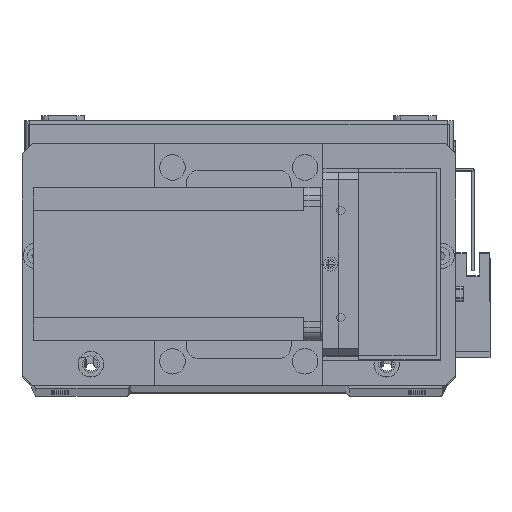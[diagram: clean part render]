
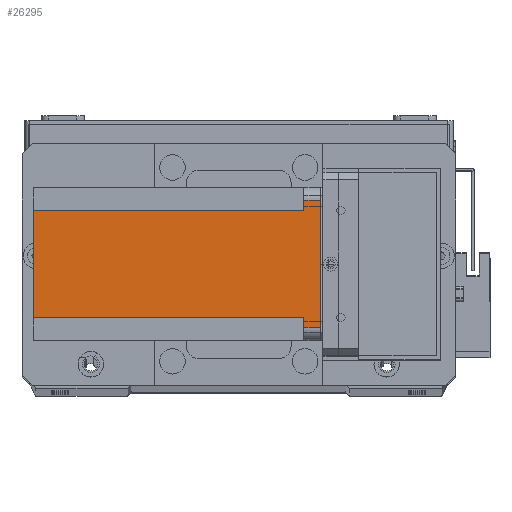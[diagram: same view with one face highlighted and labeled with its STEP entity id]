
A CAD part, top view. The second image highlights one B-rep face of the part: STEP entity #26295.
In plain terms, the highlighted planar face has unit normal (0, 0, 1) as drawn and (-1, 0, 0) by its records, which use the part's own axes.
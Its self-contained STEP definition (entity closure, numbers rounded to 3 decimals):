
#934 = VERTEX_POINT ( 'NONE', #27571 ) ;
#2223 = VERTEX_POINT ( 'NONE', #19794 ) ;
#2591 = ORIENTED_EDGE ( 'NONE', *, *, #21084, .T. ) ;
#3500 = DIRECTION ( 'NONE',  ( -1., 0., 0. ) ) ;
#3876 = CARTESIAN_POINT ( 'NONE',  ( 0., 9., -6.5 ) ) ;
#4418 = CARTESIAN_POINT ( 'NONE',  ( 0., 0., -6.5 ) ) ;
#4535 = FACE_OUTER_BOUND ( 'NONE', #28596, .T. ) ;
#5684 = DIRECTION ( 'NONE',  ( 0., 0., -1. ) ) ;
#6665 = CARTESIAN_POINT ( 'NONE',  ( 0., 5., 0. ) ) ;
#6993 = VERTEX_POINT ( 'NONE', #28992 ) ;
#7374 = LINE ( 'NONE', #4418, #25637 ) ;
#7587 = ORIENTED_EDGE ( 'NONE', *, *, #30103, .T. ) ;
#7748 = VECTOR ( 'NONE', #10515, 1000. ) ;
#7987 = CARTESIAN_POINT ( 'NONE',  ( 0., 0., 0. ) ) ;
#8128 = CARTESIAN_POINT ( 'NONE',  ( 0., 9., -112.5 ) ) ;
#8707 = CARTESIAN_POINT ( 'NONE',  ( 0., 55., -6.5 ) ) ;
#10515 = DIRECTION ( 'NONE',  ( 0., -1., 0. ) ) ;
#10524 = VERTEX_POINT ( 'NONE', #8707 ) ;
#11416 = ORIENTED_EDGE ( 'NONE', *, *, #23266, .F. ) ;
#11671 = ORIENTED_EDGE ( 'NONE', *, *, #31544, .F. ) ;
#12012 = LINE ( 'NONE', #15423, #25155 ) ;
#12558 = ORIENTED_EDGE ( 'NONE', *, *, #26077, .F. ) ;
#12590 = CARTESIAN_POINT ( 'NONE',  ( 0., 0., -112.5 ) ) ;
#12886 = DIRECTION ( 'NONE',  ( 0., -1., 0. ) ) ;
#13795 = ORIENTED_EDGE ( 'NONE', *, *, #25352, .F. ) ;
#13852 = CARTESIAN_POINT ( 'NONE',  ( 0., 55., -112.5 ) ) ;
#14143 = VECTOR ( 'NONE', #30949, 1000. ) ;
#14441 = LINE ( 'NONE', #7987, #7748 ) ;
#15423 = CARTESIAN_POINT ( 'NONE',  ( 0., 5., -112.5 ) ) ;
#16234 = VECTOR ( 'NONE', #5684, 1000. ) ;
#16780 = ORIENTED_EDGE ( 'NONE', *, *, #30803, .F. ) ;
#17024 = LINE ( 'NONE', #12590, #23567 ) ;
#17191 = DIRECTION ( 'NONE',  ( 0., 0., 1. ) ) ;
#17783 = DIRECTION ( 'NONE',  ( 0., 0., 1. ) ) ;
#17918 = ORIENTED_EDGE ( 'NONE', *, *, #26665, .T. ) ;
#18374 = LINE ( 'NONE', #26127, #21865 ) ;
#19057 = LINE ( 'NONE', #13852, #14143 ) ;
#19425 = DIRECTION ( 'NONE',  ( 0., 1., 0. ) ) ;
#19794 = CARTESIAN_POINT ( 'NONE',  ( 0., 51., -112.5 ) ) ;
#20717 = PLANE ( 'NONE',  #26801 ) ;
#20931 = DIRECTION ( 'NONE',  ( 0., -1., 0. ) ) ;
#21084 = EDGE_CURVE ( 'NONE', #2223, #22112, #17024, .T. ) ;
#21865 = VECTOR ( 'NONE', #28552, 1000. ) ;
#22112 = VERTEX_POINT ( 'NONE', #28660 ) ;
#22133 = CARTESIAN_POINT ( 'NONE',  ( 0., 51., -6.5 ) ) ;
#22752 = LINE ( 'NONE', #8128, #16234 ) ;
#23266 = EDGE_CURVE ( 'NONE', #6993, #31784, #14441, .T. ) ;
#23403 = VERTEX_POINT ( 'NONE', #3876 ) ;
#23567 = VECTOR ( 'NONE', #12886, 1000. ) ;
#24540 = CARTESIAN_POINT ( 'NONE',  ( 0., 51., -112.5 ) ) ;
#25155 = VECTOR ( 'NONE', #17783, 1000. ) ;
#25352 = EDGE_CURVE ( 'NONE', #23403, #22112, #22752, .T. ) ;
#25637 = VECTOR ( 'NONE', #19425, 1000. ) ;
#26077 = EDGE_CURVE ( 'NONE', #2223, #31336, #29951, .T. ) ;
#26127 = CARTESIAN_POINT ( 'NONE',  ( 0., 60., -6.5 ) ) ;
#26295 = ADVANCED_FACE ( 'NONE', ( #4535 ), #20717, .T. ) ;
#26665 = EDGE_CURVE ( 'NONE', #934, #31784, #12012, .T. ) ;
#26801 = AXIS2_PLACEMENT_3D ( 'NONE', #28267, #3500, #20931 ) ;
#27571 = CARTESIAN_POINT ( 'NONE',  ( 0., 5., -6.5 ) ) ;
#28267 = CARTESIAN_POINT ( 'NONE',  ( 0., 0., -112.5 ) ) ;
#28471 = VECTOR ( 'NONE', #17191, 1000. ) ;
#28552 = DIRECTION ( 'NONE',  ( 0., 1., 0. ) ) ;
#28596 = EDGE_LOOP ( 'NONE', ( #16780, #17918, #11416, #7587, #11671, #12558, #2591, #13795 ) ) ;
#28660 = CARTESIAN_POINT ( 'NONE',  ( 0., 9., -112.5 ) ) ;
#28992 = CARTESIAN_POINT ( 'NONE',  ( 0., 55., 0. ) ) ;
#29951 = LINE ( 'NONE', #24540, #28471 ) ;
#30103 = EDGE_CURVE ( 'NONE', #6993, #10524, #19057, .T. ) ;
#30803 = EDGE_CURVE ( 'NONE', #934, #23403, #7374, .T. ) ;
#30949 = DIRECTION ( 'NONE',  ( 0., 0., -1. ) ) ;
#31336 = VERTEX_POINT ( 'NONE', #22133 ) ;
#31544 = EDGE_CURVE ( 'NONE', #31336, #10524, #18374, .T. ) ;
#31784 = VERTEX_POINT ( 'NONE', #6665 ) ;
